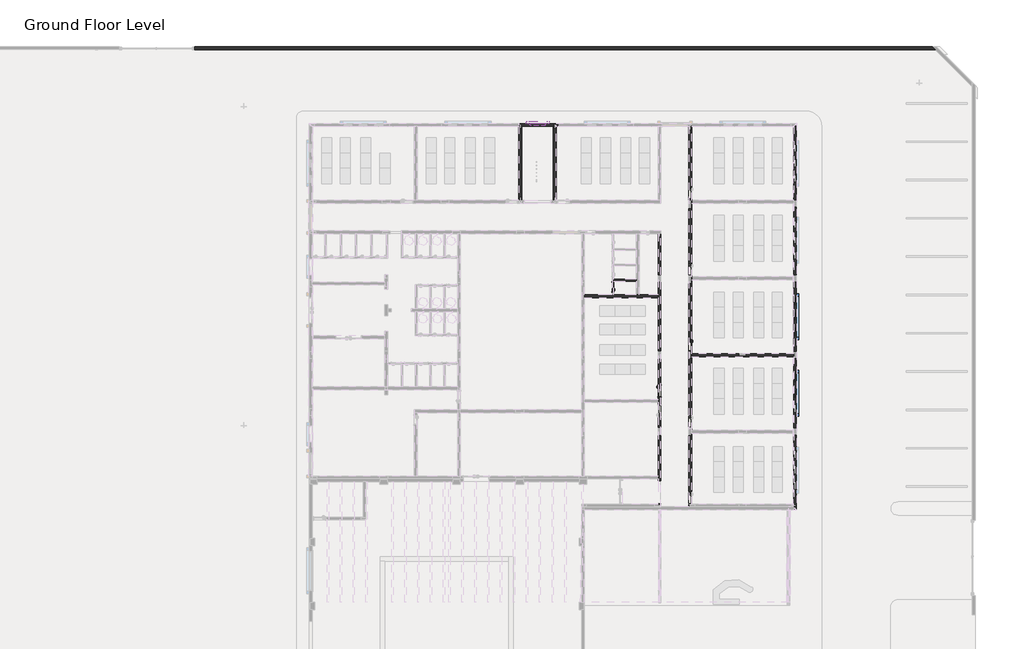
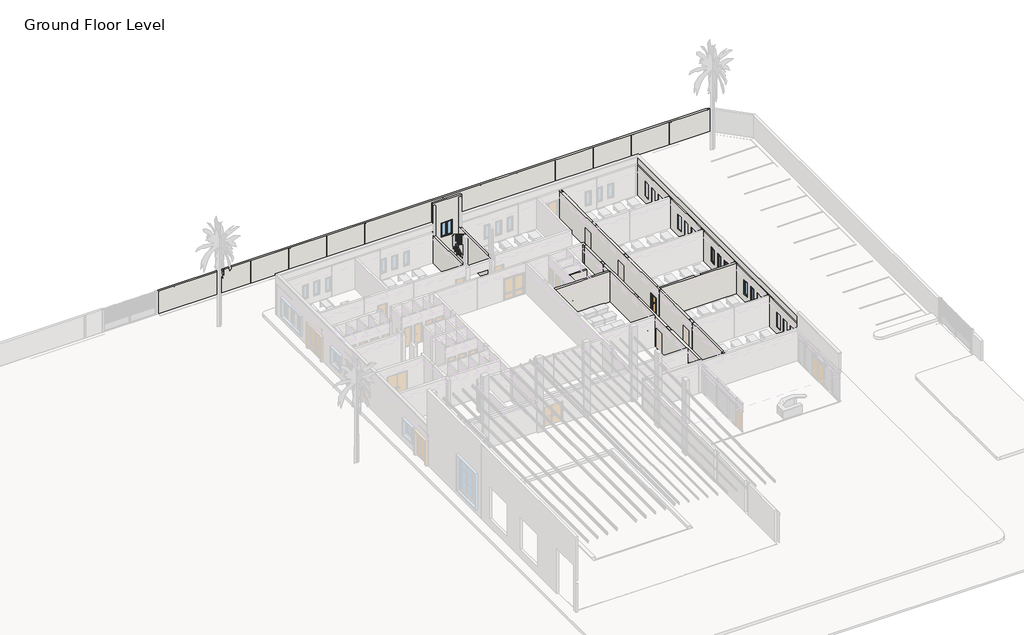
# One storey, part 9 of 23: 10 walls, 9 windows, 3 doors.
"""IFC4 building model written with IfcOpenShell, lengths in millimetres."""

from ifc_helpers import new_model, si_unit, frame, origin, place, context, project, spatial, polyline, outline, extrude, faceted_brep, transform, mapped, element, save
from components import int_single_flush_nz_700x_2100_e1d28701, int_single_flush_nz_900_x_2100_021ef152, int_single_flush_nz_900_x_2100_2a598139, awning_casement_double_w7_ecde4b56, window_batten_type_1_98129cd1, window_batten_type_1_65f01d97, window_single_shutter_w3_b236610e

model = new_model("IFC4")

# Units and contexts
model_context = context("Model", 3, world=origin())
ifc_project = project(units=[si_unit("LENGTHUNIT", "METRE", prefix="MILLI")], contexts=[model_context])

# Site, building, storey
site = spatial("IfcSite", under=ifc_project)
building = spatial("IfcBuilding", under=site)
storey = spatial("IfcBuildingStorey", under=building, Name="Ground Floor Level", Elevation=900.0)

# Doors
placement = place(None, origin())
int_single_flush_nz_700x_2100_shape = int_single_flush_nz_700x_2100_e1d28701(model_context)
element("IfcDoor", 1, ObjectType="Int Single-Flush (NZ) : 700x 2100", at=placement, inside=storey, context=model_context, shape_type="MappedRepresentation", body=[
    mapped(int_single_flush_nz_700x_2100_shape, transform((1702.7672395, 8941.2153534, 1000.0), x_axis=(0.0, 1.0, 0.0), y_axis=(-1.0, 0.0, 0.0), z_axis=(0.0, 0.0, 1.0))),
])
int_single_flush_nz_900_x_2100_shape = int_single_flush_nz_900_x_2100_021ef152(model_context)
element("IfcDoor", 2, ObjectType="Int Single-Flush (NZ) : 900 x 2100", at=placement, inside=storey, context=model_context, shape_type="MappedRepresentation", body=[
    mapped(int_single_flush_nz_900_x_2100_shape, transform((7752.7672395, 4239.2153534, 1000.0), x_axis=(0.0, -1.0, 0.0), y_axis=(1.0, 0.0, 0.0), z_axis=(0.0, 0.0, 1.0))),
])
int_single_flush_nz_900_x_2100_2_shape = int_single_flush_nz_900_x_2100_2a598139(model_context)
element("IfcDoor", 3, ObjectType="Int Single-Flush (NZ) : 900 x 2100", at=placement, inside=storey, context=model_context, shape_type="MappedRepresentation", body=[
    mapped(int_single_flush_nz_900_x_2100_2_shape, transform((5352.7672395, 649.2153534, 1000.0), x_axis=(0.0, -1.0, 0.0), y_axis=(1.0, 0.0, 0.0), z_axis=(0.0, 0.0, 1.0))),
])

# Walls
element("IfcWall", 4, ObjectType="Exterior - Blockwork 200 Stairs", at=placement, inside=storey, context=model_context, shape_type="Brep", body=[
    faceted_brep([(-5437.2327605, 21435.2153534, 4100.0), (-5437.2327605, 15655.2153534, 4100.0), (-5437.2327605, 15655.2153534, 1000.0), (-5437.2327605, 21435.2153534, 1000.0), (-5657.2327605, 15655.2153534, 4100.0), (-5657.2327605, 21435.2153534, 4100.0), (-5657.2327605, 21435.2153534, 1000.0), (-5657.2327605, 15655.2153534, 1000.0), (-5447.2327605, 15945.2153534, 900.0), (-5647.2327605, 15945.2153534, 900.0), (-5647.2327605, 21245.2153534, 900.0), (-5447.2327605, 21245.2153534, 900.0), (-5447.2327605, 21435.2153534, 4100.0), (-5447.2327605, 21245.2153534, 4100.0), (-5647.2327605, 21245.2153534, 4100.0), (-5647.2327605, 21435.2153534, 4100.0), (-5647.2327605, 15655.2153534, 4100.0), (-5647.2327605, 15945.2153534, 4100.0), (-5447.2327605, 15945.2153534, 4100.0), (-5447.2327605, 15655.2153534, 4100.0), (-5647.2327605, 15655.2153534, 1000.0), (-5647.2327605, 15945.2153534, 1000.0), (-5447.2327605, 15945.2153534, 1000.0), (-5447.2327605, 15655.2153534, 1000.0), (-5447.2327605, 21435.2153534, 1000.0), (-5447.2327605, 21245.2153534, 1000.0), (-5647.2327605, 21245.2153534, 1000.0), (-5647.2327605, 21435.2153534, 1000.0)], [[[0, 1, 2, 3]], [[4, 5, 6, 7]], [[8, 9, 10, 11]], [[1, 0, 12, 13, 14, 15, 5, 4, 16, 17, 18, 19]], [[20, 21, 17, 16]], [[9, 8, 22, 18, 17, 21]], [[19, 18, 22, 23]], [[13, 12, 24, 25]], [[11, 10, 26, 14, 13, 25]], [[26, 27, 15, 14]], [[27, 6, 5, 15]], [[12, 0, 3, 24]], [[16, 4, 7, 20]], [[1, 19, 23, 2]], [[26, 21, 20, 7, 6, 27]], [[21, 26, 10, 9]], [[22, 25, 24, 3, 2, 23]], [[25, 22, 8, 11]]]),
])
element("IfcWall", 5, ObjectType="Exterior - Blockwork 200 Stairs", at=placement, inside=storey, context=model_context, shape_type="Brep", body=[
    faceted_brep([(-2737.2327605, 15655.2153534, 900.0), (-2737.2327605, 21435.2153534, 900.0), (-2737.2327605, 21435.2153534, 4100.0), (-2737.2327605, 15655.2153534, 4100.0), (-2957.2327605, 21435.2153534, 900.0), (-2957.2327605, 15655.2153534, 900.0), (-2957.2327605, 15655.2153534, 4100.0), (-2957.2327605, 21435.2153534, 4100.0), (-2747.2327605, 15655.2153534, 900.0), (-2747.2327605, 15945.2153534, 900.0), (-2947.2327605, 15945.2153534, 900.0), (-2947.2327605, 15655.2153534, 900.0), (-2947.2327605, 21435.2153534, 900.0), (-2947.2327605, 21245.2153534, 900.0), (-2747.2327605, 21245.2153534, 900.0), (-2747.2327605, 21435.2153534, 900.0), (-2747.2327605, 21435.2153534, 4100.0), (-2747.2327605, 21245.2153534, 4100.0), (-2947.2327605, 21245.2153534, 4100.0), (-2947.2327605, 21435.2153534, 4100.0), (-2947.2327605, 15655.2153534, 4100.0), (-2947.2327605, 15945.2153534, 4100.0), (-2747.2327605, 15945.2153534, 4100.0), (-2747.2327605, 15655.2153534, 4100.0), (-2747.2327605, 21435.2153534, 1000.0), (-2947.2327605, 21435.2153534, 1000.0), (-2747.2327605, 15655.2153534, 1000.0), (-2947.2327605, 15655.2153534, 1000.0)], [[[0, 1, 2, 3]], [[4, 5, 6, 7]], [[1, 0, 8, 9, 10, 11, 5, 4, 12, 13, 14, 15]], [[3, 2, 16, 17, 18, 19, 7, 6, 20, 21, 22, 23]], [[2, 1, 15, 24, 16]], [[4, 7, 19, 25, 12]], [[0, 3, 23, 26, 8]], [[6, 5, 11, 27, 20]], [[10, 21, 20, 27, 11]], [[21, 10, 9, 22]], [[22, 9, 8, 26, 23]], [[14, 17, 16, 24, 15]], [[17, 14, 13, 18]], [[18, 13, 12, 25, 19]]]),
])
element("IfcWall", 6, ObjectType="Exterior - Blockwork 200mm", at=placement, inside=storey, context=model_context, shape_type="Brep", body=[
    faceted_brep([(15842.7672395, -8344.7846466, 5302.8002678), (15842.7672395, 21435.2153534, 5302.8002678), (15842.7672395, 21435.2153534, 4550.0), (15842.7672395, -8344.7846466, 4550.0), (15842.7672395, -8334.7846466, 4400.0), (15842.7672395, -8334.7846466, 900.0), (15842.7672395, -8344.7846466, 900.0), (15842.7672395, -8354.7846466, 900.0), (15842.7672395, -8354.7846466, 4400.0), (15842.7672395, -8344.7846466, 4400.0), (15842.7672395, -8134.7846466, 4400.0), (15842.7672395, -8124.7846466, 4400.0), (15842.7672395, -2564.7846466, 4400.0), (15842.7672395, -2344.7846466, 4400.0), (15842.7672395, 3425.2153534, 4400.0), (15842.7672395, 3645.2153534, 4400.0), (15842.7672395, 9435.2153534, 4400.0), (15842.7672395, 9655.2153534, 4400.0), (15842.7672395, 15435.2153534, 4400.0), (15842.7672395, 15655.2153534, 4400.0), (15842.7672395, 21435.2153534, 4400.0), (15842.7672395, 21435.2153534, 1000.0), (15842.7672395, 15655.2153534, 1000.0), (15842.7672395, 15655.2153534, 900.0), (15842.7672395, 15445.2153534, 900.0), (15842.7672395, 15445.2153534, 1000.0), (15842.7672395, 15435.2153534, 1000.0), (15842.7672395, 9655.2153534, 1000.0), (15842.7672395, 9655.2153534, 900.0), (15842.7672395, 9445.2153534, 900.0), (15842.7672395, 9445.2153534, 1000.0), (15842.7672395, 9435.2153534, 1000.0), (15842.7672395, 3645.2153534, 1000.0), (15842.7672395, 3645.2153534, 900.0), (15842.7672395, 3435.2153534, 900.0), (15842.7672395, 3435.2153534, 1000.0), (15842.7672395, 3425.2153534, 1000.0), (15842.7672395, -2344.7846466, 1000.0), (15842.7672395, -2344.7846466, 900.0), (15842.7672395, -2554.7846466, 900.0), (15842.7672395, -2554.7846466, 1000.0), (15842.7672395, -2564.7846466, 1000.0), (15842.7672395, -8124.7846466, 1000.0), (15842.7672395, -8134.7846466, 1000.0), (15842.7672395, 20035.2153534, 1800.0), (15842.7672395, 20035.2153534, 3400.0), (15842.7672395, 19435.2153534, 3400.0), (15842.7672395, 19435.2153534, 1800.0), (15842.7672395, 18855.2153534, 1800.0), (15842.7672395, 18855.2153534, 3400.0), (15842.7672395, 18255.2153534, 3400.0), (15842.7672395, 18255.2153534, 1800.0), (15842.7672395, 17655.2153534, 1800.0), (15842.7672395, 17655.2153534, 3400.0), (15842.7672395, 17055.2153534, 3400.0), (15842.7672395, 17055.2153534, 1800.0), (15842.7672395, 14055.2153534, 1800.0), (15842.7672395, 14055.2153534, 3400.0), (15842.7672395, 13455.2153534, 3400.0), (15842.7672395, 13455.2153534, 1800.0), (15842.7672395, 12835.2153534, 1800.0), (15842.7672395, 12835.2153534, 3400.0), (15842.7672395, 12235.2153534, 3400.0), (15842.7672395, 12235.2153534, 1800.0), (15842.7672395, 11635.2153534, 1800.0), (15842.7672395, 11635.2153534, 3400.0), (15842.7672395, 11035.2153534, 3400.0), (15842.7672395, 11035.2153534, 1800.0), (15842.7672395, 8035.2153534, 1800.0), (15842.7672395, 8035.2153534, 3400.0), (15842.7672395, 7435.2153534, 3400.0), (15842.7672395, 7435.2153534, 1800.0), (15842.7672395, 6855.2153534, 1800.0), (15842.7672395, 6855.2153534, 3400.0), (15842.7672395, 6255.2153534, 3400.0), (15842.7672395, 6255.2153534, 1800.0), (15842.7672395, 5635.2153534, 1800.0), (15842.7672395, 5635.2153534, 3400.0), (15842.7672395, 5035.2153534, 3400.0), (15842.7672395, 5035.2153534, 1800.0), (15842.7672395, 2045.2153534, 1800.0), (15842.7672395, 2045.2153534, 3400.0), (15842.7672395, 1445.2153534, 3400.0), (15842.7672395, 1445.2153534, 1800.0), (15842.7672395, 845.2153534, 1800.0), (15842.7672395, 845.2153534, 3400.0), (15842.7672395, 245.2153534, 3400.0), (15842.7672395, 245.2153534, 1800.0), (15842.7672395, -354.7846466, 1800.0), (15842.7672395, -354.7846466, 3400.0), (15842.7672395, -954.7846466, 3400.0), (15842.7672395, -954.7846466, 1800.0), (15842.7672395, -3944.7846466, 1800.0), (15842.7672395, -3944.7846466, 3400.0), (15842.7672395, -4544.7846466, 3400.0), (15842.7672395, -4544.7846466, 1800.0), (15842.7672395, -5144.7846466, 1800.0), (15842.7672395, -5144.7846466, 3400.0), (15842.7672395, -5744.7846466, 3400.0), (15842.7672395, -5744.7846466, 1800.0), (15842.7672395, -6364.7846466, 1800.0), (15842.7672395, -6364.7846466, 3400.0), (15842.7672395, -6964.7846466, 3400.0), (15842.7672395, -6964.7846466, 1800.0), (15842.7672395, -8564.7846466, 900.0), (15842.7672395, -8564.7846466, 4400.0), (15842.7672395, -8554.7846466, 4400.0), (15842.7672395, -8554.7846466, 900.0), (16062.7672395, -8564.7846466, 900.0), (16062.7672395, 21435.2153534, 900.0), (16062.7672395, 21435.2153534, 5302.8002678), (16062.7672395, -8344.7846466, 5302.8002678), (16062.7672395, -8344.7846466, 4400.0), (16062.7672395, -8564.7846466, 4400.0), (16062.7672395, 20035.2153534, 3400.0), (16062.7672395, 20035.2153534, 1800.0), (16062.7672395, 19435.2153534, 1800.0), (16062.7672395, 19435.2153534, 3400.0), (16062.7672395, 18855.2153534, 3400.0), (16062.7672395, 18855.2153534, 1800.0), (16062.7672395, 18255.2153534, 1800.0), (16062.7672395, 18255.2153534, 3400.0), (16062.7672395, 17655.2153534, 3400.0), (16062.7672395, 17655.2153534, 1800.0), (16062.7672395, 17055.2153534, 1800.0), (16062.7672395, 17055.2153534, 3400.0), (16062.7672395, 14055.2153534, 3400.0), (16062.7672395, 14055.2153534, 1800.0), (16062.7672395, 13455.2153534, 1800.0), (16062.7672395, 13455.2153534, 3400.0), (16062.7672395, 12835.2153534, 3400.0), (16062.7672395, 12835.2153534, 1800.0), (16062.7672395, 12235.2153534, 1800.0), (16062.7672395, 12235.2153534, 3400.0), (16062.7672395, 11635.2153534, 3400.0), (16062.7672395, 11635.2153534, 1800.0), (16062.7672395, 11035.2153534, 1800.0), (16062.7672395, 11035.2153534, 3400.0), (16062.7672395, 8035.2153534, 3400.0), (16062.7672395, 8035.2153534, 1800.0), (16062.7672395, 7435.2153534, 1800.0), (16062.7672395, 7435.2153534, 3400.0), (16062.7672395, 6855.2153534, 3400.0), (16062.7672395, 6855.2153534, 1800.0), (16062.7672395, 6255.2153534, 1800.0), (16062.7672395, 6255.2153534, 3400.0), (16062.7672395, 5635.2153534, 3400.0), (16062.7672395, 5635.2153534, 1800.0), (16062.7672395, 5035.2153534, 1800.0), (16062.7672395, 5035.2153534, 3400.0), (16062.7672395, 2045.2153534, 3400.0), (16062.7672395, 2045.2153534, 1800.0), (16062.7672395, 1445.2153534, 1800.0), (16062.7672395, 1445.2153534, 3400.0), (16062.7672395, 845.2153534, 3400.0), (16062.7672395, 845.2153534, 1800.0), (16062.7672395, 245.2153534, 1800.0), (16062.7672395, 245.2153534, 3400.0), (16062.7672395, -354.7846466, 3400.0), (16062.7672395, -354.7846466, 1800.0), (16062.7672395, -954.7846466, 1800.0), (16062.7672395, -954.7846466, 3400.0), (16062.7672395, -3944.7846466, 3400.0), (16062.7672395, -3944.7846466, 1800.0), (16062.7672395, -4544.7846466, 1800.0), (16062.7672395, -4544.7846466, 3400.0), (16062.7672395, -5144.7846466, 3400.0), (16062.7672395, -5144.7846466, 1800.0), (16062.7672395, -5744.7846466, 1800.0), (16062.7672395, -5744.7846466, 3400.0), (16062.7672395, -6364.7846466, 3400.0), (16062.7672395, -6364.7846466, 1800.0), (16062.7672395, -6964.7846466, 1800.0), (16062.7672395, -6964.7846466, 3400.0), (15852.7672395, 21435.2153534, 900.0), (15852.7672395, 21435.2153534, 1000.0), (16052.7672395, 21435.2153534, 4400.0), (16052.7672395, 21435.2153534, 4550.0), (16052.7672395, 15145.2153534, 900.0), (16052.7672395, 15145.2153534, 4400.0), (16052.7672395, 9795.2153534, 4400.0), (16052.7672395, 9795.2153534, 900.0), (16052.7672395, 9295.2153534, 900.0), (16052.7672395, 9295.2153534, 4400.0), (16052.7672395, 3795.2153534, 4400.0), (16052.7672395, 3795.2153534, 900.0), (16052.7672395, 3295.2153534, 900.0), (16052.7672395, 3295.2153534, 4400.0), (16052.7672395, -2204.7846466, 4400.0), (16052.7672395, -2204.7846466, 900.0), (16052.7672395, -2704.7846466, 900.0), (16052.7672395, -2704.7846466, 4400.0), (16052.7672395, -8134.7846466, 4400.0), (16052.7672395, -8134.7846466, 900.0), (16052.7672395, -8334.7846466, 900.0), (16052.7672395, -8334.7846466, 4400.0), (16052.7672395, -8344.7846466, 4400.0), (16052.7672395, -8344.7846466, 4550.0), (16052.7672395, 15645.2153534, 4400.0), (16052.7672395, 15645.2153534, 900.0), (15852.7672395, 15145.2153534, 900.0), (15852.7672395, 15145.2153534, 1000.0), (15852.7672395, 15145.2153534, 4400.0), (15852.7672395, 15645.2153534, 900.0), (15852.7672395, 15645.2153534, 4400.0), (15852.7672395, 15445.2153534, 1000.0), (15852.7672395, 15445.2153534, 900.0), (15852.7672395, 9295.2153534, 900.0), (15852.7672395, 9295.2153534, 1000.0), (15852.7672395, 9295.2153534, 4400.0), (15852.7672395, 9795.2153534, 4400.0), (15852.7672395, 9445.2153534, 1000.0), (15852.7672395, 9445.2153534, 900.0), (15852.7672395, 9655.2153534, 900.0), (15852.7672395, 9655.2153534, 1000.0), (15852.7672395, 9795.2153534, 1000.0), (15852.7672395, 9795.2153534, 900.0), (15852.7672395, 3795.2153534, 4400.0), (15852.7672395, 3295.2153534, 4400.0), (15852.7672395, 3295.2153534, 1000.0), (15852.7672395, 3435.2153534, 1000.0), (15852.7672395, 3435.2153534, 900.0), (15852.7672395, 3645.2153534, 900.0), (15852.7672395, 3645.2153534, 1000.0), (15852.7672395, 3795.2153534, 1000.0), (15852.7672395, 3795.2153534, 900.0), (15852.7672395, 3295.2153534, 900.0), (15852.7672395, -2204.7846466, 4400.0), (15852.7672395, -2704.7846466, 4400.0), (15852.7672395, -2704.7846466, 1000.0), (15852.7672395, -2554.7846466, 1000.0), (15852.7672395, -2554.7846466, 900.0), (15852.7672395, -2344.7846466, 900.0), (15852.7672395, -2344.7846466, 1000.0), (15852.7672395, -2204.7846466, 1000.0), (15852.7672395, -2204.7846466, 900.0), (15852.7672395, -2704.7846466, 900.0), (15852.7672395, -8134.7846466, 1000.0), (15852.7672395, -8134.7846466, 900.0), (16052.7672395, -8354.7846466, 900.0), (16052.7672395, -8354.7846466, 4400.0), (16052.7672395, -8554.7846466, 900.0), (16052.7672395, -8554.7846466, 4400.0), (15852.7672395, 15655.2153534, 1000.0), (15852.7672395, 15655.2153534, 900.0)], [[[0, 1, 2, 3]], [[4, 5, 6, 7, 8, 9]], [[10, 11, 12, 13, 14, 15, 16, 17, 18, 19, 20, 21, 22, 23, 24, 25, 26, 27, 28, 29, 30, 31, 32, 33, 34, 35, 36, 37, 38, 39, 40, 41, 42, 43], [44, 45, 46, 47], [48, 49, 50, 51], [52, 53, 54, 55], [56, 57, 58, 59], [60, 61, 62, 63], [64, 65, 66, 67], [68, 69, 70, 71], [72, 73, 74, 75], [76, 77, 78, 79], [80, 81, 82, 83], [84, 85, 86, 87], [88, 89, 90, 91], [92, 93, 94, 95], [96, 97, 98, 99], [100, 101, 102, 103]], [[104, 105, 106, 107]], [[108, 109, 110, 111, 112, 113], [114, 115, 116, 117], [118, 119, 120, 121], [122, 123, 124, 125], [126, 127, 128, 129], [130, 131, 132, 133], [134, 135, 136, 137], [138, 139, 140, 141], [142, 143, 144, 145], [146, 147, 148, 149], [150, 151, 152, 153], [154, 155, 156, 157], [158, 159, 160, 161], [162, 163, 164, 165], [166, 167, 168, 169], [170, 171, 172, 173]], [[110, 109, 174, 175, 21, 20, 176, 177, 2, 1]], [[178, 179, 180, 181, 182, 183, 184, 185, 186, 187, 188, 189, 190, 191, 192, 193, 194, 195, 196, 197, 177, 176, 198, 199]], [[179, 178, 200, 201, 202]], [[203, 204, 202, 201, 205, 206]], [[204, 203, 199, 198]], [[183, 182, 207, 208, 209]], [[210, 209, 208, 211, 212, 213, 214, 215]], [[181, 180, 210, 215, 216]], [[217, 218, 219, 220, 221, 222, 223, 224]], [[185, 184, 217, 224, 225]], [[187, 186, 226, 219, 218]], [[227, 228, 229, 230, 231, 232, 233, 234]], [[189, 188, 227, 234, 235]], [[191, 190, 236, 229, 228]], [[193, 192, 10, 43, 237, 238]], [[195, 194, 5, 4]], [[239, 240, 8, 7]], [[240, 239, 241, 242]], [[45, 44, 115, 114]], [[46, 45, 114, 117]], [[47, 46, 117, 116]], [[44, 47, 116, 115]], [[49, 48, 119, 118]], [[50, 49, 118, 121]], [[51, 50, 121, 120]], [[48, 51, 120, 119]], [[53, 52, 123, 122]], [[54, 53, 122, 125]], [[55, 54, 125, 124]], [[52, 55, 124, 123]], [[57, 56, 127, 126]], [[58, 57, 126, 129]], [[59, 58, 129, 128]], [[56, 59, 128, 127]], [[61, 60, 131, 130]], [[62, 61, 130, 133]], [[63, 62, 133, 132]], [[60, 63, 132, 131]], [[65, 64, 135, 134]], [[66, 65, 134, 137]], [[67, 66, 137, 136]], [[64, 67, 136, 135]], [[69, 68, 139, 138]], [[70, 69, 138, 141]], [[71, 70, 141, 140]], [[68, 71, 140, 139]], [[73, 72, 143, 142]], [[74, 73, 142, 145]], [[75, 74, 145, 144]], [[72, 75, 144, 143]], [[77, 76, 147, 146]], [[78, 77, 146, 149]], [[79, 78, 149, 148]], [[76, 79, 148, 147]], [[81, 80, 151, 150]], [[82, 81, 150, 153]], [[83, 82, 153, 152]], [[80, 83, 152, 151]], [[85, 84, 155, 154]], [[86, 85, 154, 157]], [[87, 86, 157, 156]], [[84, 87, 156, 155]], [[89, 88, 159, 158]], [[90, 89, 158, 161]], [[91, 90, 161, 160]], [[88, 91, 160, 159]], [[93, 92, 163, 162]], [[94, 93, 162, 165]], [[95, 94, 165, 164]], [[92, 95, 164, 163]], [[97, 96, 167, 166]], [[98, 97, 166, 169]], [[99, 98, 169, 168]], [[96, 99, 168, 167]], [[101, 100, 171, 170]], [[102, 101, 170, 173]], [[103, 102, 173, 172]], [[100, 103, 172, 171]], [[177, 197, 3, 2]], [[105, 104, 108, 113]], [[112, 111, 0, 3, 197, 196]], [[242, 241, 107, 106]], [[229, 237, 43, 42, 41, 40, 230]], [[230, 40, 39, 231]], [[237, 229, 236, 238]], [[219, 234, 233, 37, 36, 35, 220]], [[220, 35, 34, 221]], [[234, 219, 226, 235]], [[37, 233, 232, 38]], [[208, 224, 223, 32, 31, 30, 211]], [[211, 30, 29, 212]], [[224, 208, 207, 225]], [[32, 223, 222, 33]], [[201, 215, 214, 27, 26, 25, 205]], [[205, 25, 24, 206]], [[215, 201, 200, 216]], [[27, 214, 213, 28]], [[175, 243, 22, 21]], [[244, 243, 175, 174]], [[243, 244, 23, 22]], [[109, 108, 104, 107, 241, 239, 7, 6, 5, 194, 193, 238, 236, 190, 189, 235, 226, 186, 185, 225, 207, 182, 181, 216, 200, 178, 199, 203, 206, 24, 23, 244, 174]], [[39, 38, 232, 231]], [[34, 33, 222, 221]], [[29, 28, 213, 212]], [[1, 0, 111, 110]], [[180, 179, 202, 204, 198, 176, 20, 19, 18, 17, 16, 15, 14, 13, 12, 11, 10, 192, 191, 228, 227, 188, 187, 218, 217, 184, 183, 209, 210]], [[195, 4, 9, 8, 240, 242, 106, 105, 113, 112, 196]]]),
])
element("IfcWall", 7, ObjectType="Exterior - Blockwork 200mm", at=placement, inside=storey, context=model_context, shape_type="Brep", body=[
    faceted_brep([(-2637.2327605, 21435.2153534, 900.0), (-2637.2327605, 21435.2153534, 7598.0296693), (-5657.2327605, 21435.2153534, 7598.0296693), (-5657.2327605, 21435.2153534, 4400.0), (-5657.2327605, 21435.2153534, 4100.0), (-5657.2327605, 21435.2153534, 1000.0), (-5657.2327605, 21435.2153534, 900.0), (-5647.2327605, 21435.2153534, 900.0), (-5647.2327605, 21435.2153534, 1000.0), (-5647.2327605, 21435.2153534, 4100.0), (-5647.2327605, 21435.2153534, 7400.0), (-5447.2327605, 21435.2153534, 7400.0), (-5447.2327605, 21435.2153534, 4100.0), (-5447.2327605, 21435.2153534, 1000.0), (-5437.2327605, 21435.2153534, 1000.0), (-2947.2327605, 21435.2153534, 1000.0), (-2947.2327605, 21435.2153534, 4100.0), (-2947.2327605, 21435.2153534, 7400.0), (-2747.2327605, 21435.2153534, 7400.0), (-2747.2327605, 21435.2153534, 4100.0), (-2747.2327605, 21435.2153534, 1000.0), (-2737.2327605, 21435.2153534, 1000.0), (-2737.2327605, 21435.2153534, 900.0), (-4797.2327605, 21435.2153534, 3552.9147636), (-4797.2327605, 21435.2153534, 5152.9147636), (-3597.2327605, 21435.2153534, 5152.9147636), (-3597.2327605, 21435.2153534, 3552.9147636), (-2637.2327605, 21655.2153534, 900.0), (-5657.2327605, 21655.2153534, 900.0), (-5657.2327605, 21655.2153534, 7598.0296693), (-2637.2327605, 21655.2153534, 7598.0296693), (-4797.2327605, 21655.2153534, 5152.9147636), (-4797.2327605, 21655.2153534, 3552.9147636), (-3597.2327605, 21655.2153534, 3552.9147636), (-3597.2327605, 21655.2153534, 5152.9147636), (-2737.2327605, 21445.2153534, 900.0), (-2747.2327605, 21445.2153534, 900.0), (-2747.2327605, 21645.2153534, 900.0), (-2947.2327605, 21645.2153534, 900.0), (-2947.2327605, 21445.2153534, 900.0), (-5447.2327605, 21445.2153534, 900.0), (-5447.2327605, 21645.2153534, 900.0), (-5647.2327605, 21645.2153534, 900.0), (-5447.2327605, 21645.2153534, 7400.0), (-5447.2327605, 21445.2153534, 1000.0), (-5647.2327605, 21645.2153534, 7400.0), (-2947.2327605, 21645.2153534, 7400.0), (-2947.2327605, 21445.2153534, 1000.0), (-2747.2327605, 21645.2153534, 7400.0), (-2747.2327605, 21445.2153534, 1000.0), (-2737.2327605, 21445.2153534, 1000.0)], [[[0, 1, 2, 3, 4, 5, 6, 7, 8, 9, 10, 11, 12, 13, 14, 15, 16, 17, 18, 19, 20, 21, 22], [23, 24, 25, 26]], [[27, 28, 29, 30], [31, 32, 33, 34]], [[28, 27, 0, 22, 35, 36, 37, 38, 39, 40, 41, 42, 7, 6]], [[1, 0, 27, 30]], [[2, 1, 30, 29]], [[11, 43, 41, 40, 44, 13, 12]], [[43, 45, 42, 41]], [[45, 43, 11, 10]], [[38, 46, 17, 16, 15, 47, 39]], [[48, 46, 38, 37]], [[46, 48, 18, 17]], [[48, 37, 36, 49, 20, 19, 18]], [[45, 10, 9, 8, 7, 42]], [[24, 23, 32, 31]], [[25, 24, 31, 34]], [[26, 25, 34, 33]], [[23, 26, 33, 32]], [[44, 47, 15, 14, 13]], [[50, 21, 20, 49]], [[35, 50, 49, 36]], [[47, 44, 40, 39]], [[2, 29, 28, 6, 5, 4, 3]], [[50, 35, 22, 21]]]),
])
element("IfcWall", 8, ObjectType="Exterior - Blockwork 200mm", at=placement, inside=storey, context=model_context, shape_type="SweptSolid", body=[
    extrude(outline(polyline([(26941.6402558, 27445.2153534), (-31047.2327605, 27445.2153534), (-31047.2327605, 27665.2153534), (26721.6402558, 27665.2153534), (26941.6402558, 27445.2153534)])), frame((0.0, 0.0, 600.0), z_axis=(0.0, 0.0, 1.0), x_axis=(1.0, 0.0, 0.0)), (0.0, 0.0, 1.0), 2500.0),
])
element("IfcWall", 9, ObjectType="Interior - Blockwork 200", at=placement, inside=storey, context=model_context, shape_type="Brep", body=[
    faceted_brep([(5242.7672395, 13035.2153534, 4400.0), (5242.7672395, 13035.2153534, 900.0), (5242.7672395, 8255.2153534, 900.0), (5242.7672395, 8045.2153534, 900.0), (5242.7672395, 8045.2153534, 1000.0), (5242.7672395, 8035.2153534, 1000.0), (5242.7672395, 1193.2153534, 1000.0), (5242.7672395, 1193.2153534, 3119.0), (5242.7672395, 255.2153534, 3119.0), (5242.7672395, 255.2153534, 1000.0), (5242.7672395, 55.2153534, 1000.0), (5242.7672395, 45.2153534, 1000.0), (5242.7672395, 45.2153534, 900.0), (5242.7672395, -154.7846466, 900.0), (5242.7672395, -154.7846466, 1000.0), (5242.7672395, -164.7846466, 1000.0), (5242.7672395, -364.7846466, 1000.0), (5242.7672395, -364.7846466, 3119.0), (5242.7672395, -1302.7846466, 3119.0), (5242.7672395, -1302.7846466, 1000.0), (5242.7672395, -5944.7846466, 1000.0), (5242.7672395, -5954.7846466, 1000.0), (5242.7672395, -5954.7846466, 900.0), (5242.7672395, -6154.7846466, 900.0), (5242.7672395, -6154.7846466, 910.0), (5242.7672395, -6164.7846466, 910.0), (5242.7672395, -6289.7846466, 910.0), (5242.7672395, -6289.7846466, 3000.0), (5242.7672395, -8089.7846466, 3000.0), (5242.7672395, -8089.7846466, 910.0), (5242.7672395, -8134.7846466, 910.0), (5242.7672395, -8134.7846466, 4400.0), (5242.7672395, -6164.7846466, 4400.0), (5242.7672395, -5944.7846466, 4400.0), (5242.7672395, -164.7846466, 4400.0), (5242.7672395, 55.2153534, 4400.0), (5242.7672395, 8035.2153534, 4400.0), (5242.7672395, 8255.2153534, 4400.0), (5462.7672395, 13035.2153534, 4400.0), (5462.7672395, -8134.7846466, 4400.0), (5462.7672395, -8134.7846466, 1000.0), (5462.7672395, -8089.7846466, 1000.0), (5462.7672395, -8089.7846466, 3000.0), (5462.7672395, -6289.7846466, 3000.0), (5462.7672395, -6289.7846466, 1000.0), (5462.7672395, -1302.7846466, 1000.0), (5462.7672395, -1302.7846466, 3119.0), (5462.7672395, -364.7846466, 3119.0), (5462.7672395, -364.7846466, 1000.0), (5462.7672395, 255.2153534, 1000.0), (5462.7672395, 255.2153534, 3119.0), (5462.7672395, 1193.2153534, 3119.0), (5462.7672395, 1193.2153534, 1000.0), (5462.7672395, 13035.2153534, 1000.0), (5252.7672395, 12745.2153534, 900.0), (5452.7672395, 12745.2153534, 900.0), (5452.7672395, 9795.2153534, 900.0), (5252.7672395, 9795.2153534, 900.0), (5252.7672395, 9295.2153534, 900.0), (5452.7672395, 9295.2153534, 900.0), (5452.7672395, 3845.2153534, 900.0), (5252.7672395, 3845.2153534, 900.0), (5252.7672395, 8045.2153534, 900.0), (5252.7672395, 13035.2153534, 900.0), (5252.7672395, 3245.2153534, 900.0), (5452.7672395, 3245.2153534, 900.0), (5452.7672395, -2154.7846466, 900.0), (5252.7672395, -2154.7846466, 900.0), (5252.7672395, -154.7846466, 900.0), (5252.7672395, 45.2153534, 900.0), (5252.7672395, -2754.7846466, 900.0), (5452.7672395, -2754.7846466, 900.0), (5452.7672395, -6154.7846466, 900.0), (5252.7672395, -5954.7846466, 900.0), (5252.7672395, 13035.2153534, 4400.0), (5452.7672395, 13035.2153534, 4400.0), (5452.7672395, 13035.2153534, 1000.0), (5452.7672395, 12745.2153534, 4400.0), (5452.7672395, 12745.2153534, 1000.0), (5252.7672395, 12745.2153534, 4400.0), (5452.7672395, 9295.2153534, 4400.0), (5452.7672395, 9795.2153534, 4400.0), (5452.7672395, 9795.2153534, 1000.0), (5452.7672395, 9295.2153534, 1000.0), (5252.7672395, 9295.2153534, 4400.0), (5252.7672395, 9795.2153534, 4400.0), (5252.7672395, 3845.2153534, 4400.0), (5252.7672395, 3245.2153534, 4400.0), (5252.7672395, 3245.2153534, 1000.0), (5252.7672395, 3845.2153534, 1000.0), (5452.7672395, 3845.2153534, 1000.0), (5452.7672395, 3845.2153534, 4400.0), (5452.7672395, 3245.2153534, 4400.0), (5452.7672395, 3245.2153534, 1000.0), (5252.7672395, -2154.7846466, 4400.0), (5252.7672395, -2754.7846466, 4400.0), (5252.7672395, -2754.7846466, 1000.0), (5252.7672395, -2154.7846466, 1000.0), (5452.7672395, -2154.7846466, 1000.0), (5452.7672395, -2154.7846466, 4400.0), (5452.7672395, -2754.7846466, 4400.0), (5452.7672395, -2754.7846466, 1000.0), (5452.7672395, -8134.7846466, 4400.0), (5452.7672395, -1302.7846466, 1000.0), (5452.7672395, -6289.7846466, 1000.0), (5452.7672395, 1193.2153534, 1000.0), (5452.7672395, -8134.7846466, 1000.0), (5452.7672395, -8089.7846466, 1000.0), (5452.7672395, -364.7846466, 1000.0), (5452.7672395, 255.2153534, 1000.0), (5452.7672395, -6289.7846466, 910.0), (5452.7672395, -6154.7846466, 910.0), (5452.7672395, -8134.7846466, 910.0), (5452.7672395, -8089.7846466, 910.0), (5252.7672395, 8045.2153534, 1000.0), (5252.7672395, 1193.2153534, 1000.0), (5252.7672395, 45.2153534, 1000.0), (5252.7672395, 255.2153534, 1000.0), (5252.7672395, -154.7846466, 1000.0), (5252.7672395, -364.7846466, 1000.0), (5252.7672395, -5954.7846466, 1000.0), (5252.7672395, -1302.7846466, 1000.0)], [[[0, 1, 2, 3, 4, 5, 6, 7, 8, 9, 10, 11, 12, 13, 14, 15, 16, 17, 18, 19, 20, 21, 22, 23, 24, 25, 26, 27, 28, 29, 30, 31, 32, 33, 34, 35, 36, 37]], [[38, 39, 40, 41, 42, 43, 44, 45, 46, 47, 48, 49, 50, 51, 52, 53]], [[54, 55, 56, 57, 58, 59, 60, 61, 62, 3, 2, 1, 63]], [[64, 65, 66, 67, 68, 13, 12, 69]], [[70, 71, 72, 23, 22, 73]], [[1, 0, 74, 63]], [[75, 38, 53, 76]], [[77, 75, 76, 78]], [[54, 79, 77, 78, 55]], [[79, 54, 63, 74]], [[80, 81, 82, 83]], [[58, 84, 80, 83, 59]], [[84, 58, 57, 85]], [[85, 57, 56, 82, 81]], [[86, 87, 88, 89]], [[61, 60, 90, 91, 86, 89]], [[92, 91, 90, 93]], [[65, 64, 88, 87, 92, 93]], [[94, 95, 96, 97]], [[67, 66, 98, 99, 94, 97]], [[100, 99, 98, 101]], [[71, 70, 96, 95, 100, 101]], [[0, 37, 36, 35, 34, 33, 32, 31, 102, 39, 38, 75, 77, 79, 74], [95, 94, 99, 100], [87, 86, 91, 92], [81, 80, 84, 85]], [[101, 98, 103, 45, 44, 104]], [[82, 78, 76, 53, 52, 105, 93, 90, 83]], [[40, 106, 107, 41]], [[48, 108, 109, 49]], [[71, 101, 104, 110, 111, 72]], [[78, 82, 56, 55]], [[83, 90, 60, 59]], [[66, 65, 93, 105, 109, 108, 103, 98]], [[107, 106, 112, 113]], [[114, 89, 88, 115, 6, 5, 4]], [[116, 11, 10, 9, 117]], [[69, 116, 117, 115, 88, 64]], [[114, 62, 61, 89]], [[116, 69, 12, 11]], [[62, 114, 4, 3]], [[14, 118, 119, 16, 15]], [[96, 120, 21, 20, 19, 121, 97]], [[68, 118, 14, 13]], [[118, 68, 67, 97, 121, 119]], [[73, 120, 96, 70]], [[120, 73, 22, 21]], [[24, 111, 110, 26, 25]], [[30, 29, 113, 112]], [[111, 24, 23, 72]], [[39, 102, 31, 30, 112, 106, 40]], [[28, 42, 41, 107, 113, 29]], [[43, 27, 26, 110, 104, 44]], [[42, 28, 27, 43]], [[47, 17, 16, 119, 108, 48]], [[17, 47, 46, 18]], [[18, 46, 45, 103, 121, 19]], [[103, 108, 119, 121]], [[8, 50, 49, 109, 117, 9]], [[50, 8, 7, 51]], [[51, 7, 6, 115, 105, 52]], [[109, 105, 115, 117]]]),
])
element("IfcWall", 10, ObjectType="Interior - Blockwork 200", at=placement, inside=storey, context=model_context, shape_type="Brep", body=[
    faceted_brep([(5242.7672395, 8035.2153534, 4400.0), (-537.2327605, 8035.2153534, 4400.0), (-537.2327605, 8035.2153534, 1000.0), (5242.7672395, 8035.2153534, 1000.0), (5242.7672395, 8255.2153534, 4400.0), (5242.7672395, 8255.2153534, 900.0), (3762.7672395, 8255.2153534, 900.0), (3542.7672395, 8255.2153534, 900.0), (3542.7672395, 8255.2153534, 1000.0), (-537.2327605, 8255.2153534, 1000.0), (-537.2327605, 8255.2153534, 4400.0), (1642.7672395, 8255.2153534, 4400.0), (1762.7672395, 8255.2153534, 4400.0), (3542.7672395, 8255.2153534, 4400.0), (3762.7672395, 8255.2153534, 4400.0), (-537.2327605, 8245.2153534, 900.0), (3542.7672395, 8245.2153534, 900.0), (5242.7672395, 8045.2153534, 900.0), (-537.2327605, 8045.2153534, 900.0), (5242.7672395, 8045.2153534, 1000.0), (-537.2327605, 8245.2153534, 1000.0), (-537.2327605, 8045.2153534, 1000.0), (3542.7672395, 8245.2153534, 1000.0)], [[[0, 1, 2, 3]], [[4, 5, 6, 7, 8, 9, 10, 11, 12, 13, 14]], [[15, 16, 7, 6, 5, 17, 18]], [[5, 4, 0, 3, 19, 17]], [[1, 10, 9, 20, 15, 18, 21, 2]], [[1, 0, 4, 14, 13, 12, 11, 10]], [[22, 20, 9, 8]], [[22, 16, 15, 20]], [[21, 19, 3, 2]], [[19, 21, 18, 17]], [[16, 22, 8, 7]]]),
])
element("IfcWall", 11, ObjectType="Interior - Blockwork 200", at=placement, inside=storey, context=model_context, shape_type="Brep", body=[
    faceted_brep([(7642.7672395, -8344.7846466, 4400.0), (7642.7672395, 21435.2153534, 4400.0), (7642.7672395, 21435.2153534, 1000.0), (7642.7672395, 16693.2153534, 1000.0), (7642.7672395, 16693.2153534, 3119.0), (7642.7672395, 15755.2153534, 3119.0), (7642.7672395, 15755.2153534, 1000.0), (7642.7672395, 10693.2153534, 1000.0), (7642.7672395, 10693.2153534, 3119.0), (7642.7672395, 9755.2153534, 3119.0), (7642.7672395, 9755.2153534, 1000.0), (7642.7672395, 4783.2153534, 1000.0), (7642.7672395, 4783.2153534, 3119.0), (7642.7672395, 3845.2153534, 3119.0), (7642.7672395, 3845.2153534, 1000.0), (7642.7672395, -1206.7846466, 1000.0), (7642.7672395, -1206.7846466, 3119.0), (7642.7672395, -2144.7846466, 3119.0), (7642.7672395, -2144.7846466, 1000.0), (7642.7672395, -7186.7846466, 1000.0), (7642.7672395, -7186.7846466, 3119.0), (7642.7672395, -8124.7846466, 3119.0), (7642.7672395, -8124.7846466, 1000.0), (7642.7672395, -8344.7846466, 1000.0), (7862.7672395, -8334.7846466, 900.0), (7862.7672395, -8334.7846466, 4400.0), (7862.7672395, -8344.7846466, 4400.0), (7862.7672395, -8344.7846466, 900.0), (7862.7672395, -8134.7846466, 4400.0), (7862.7672395, -8134.7846466, 1000.0), (7862.7672395, -8124.7846466, 1000.0), (7862.7672395, -8124.7846466, 3119.0), (7862.7672395, -7186.7846466, 3119.0), (7862.7672395, -7186.7846466, 1000.0), (7862.7672395, -2564.7846466, 1000.0), (7862.7672395, -2554.7846466, 1000.0), (7862.7672395, -2554.7846466, 900.0), (7862.7672395, -2344.7846466, 900.0), (7862.7672395, -2344.7846466, 1000.0), (7862.7672395, -2144.7846466, 1000.0), (7862.7672395, -2144.7846466, 3119.0), (7862.7672395, -1206.7846466, 3119.0), (7862.7672395, -1206.7846466, 1000.0), (7862.7672395, 3425.2153534, 1000.0), (7862.7672395, 3435.2153534, 1000.0), (7862.7672395, 3435.2153534, 900.0), (7862.7672395, 3645.2153534, 900.0), (7862.7672395, 3645.2153534, 1000.0), (7862.7672395, 3845.2153534, 1000.0), (7862.7672395, 3845.2153534, 3119.0), (7862.7672395, 4783.2153534, 3119.0), (7862.7672395, 4783.2153534, 1000.0), (7862.7672395, 9435.2153534, 1000.0), (7862.7672395, 9445.2153534, 1000.0), (7862.7672395, 9445.2153534, 900.0), (7862.7672395, 9655.2153534, 900.0), (7862.7672395, 9655.2153534, 1000.0), (7862.7672395, 9755.2153534, 1000.0), (7862.7672395, 9755.2153534, 3119.0), (7862.7672395, 10693.2153534, 3119.0), (7862.7672395, 10693.2153534, 1000.0), (7862.7672395, 15435.2153534, 1000.0), (7862.7672395, 15445.2153534, 1000.0), (7862.7672395, 15445.2153534, 900.0), (7862.7672395, 15655.2153534, 900.0), (7862.7672395, 15655.2153534, 1000.0), (7862.7672395, 15755.2153534, 1000.0), (7862.7672395, 15755.2153534, 3119.0), (7862.7672395, 16693.2153534, 3119.0), (7862.7672395, 16693.2153534, 1000.0), (7862.7672395, 21435.2153534, 1000.0), (7862.7672395, 21435.2153534, 4400.0), (7862.7672395, 15655.2153534, 4400.0), (7862.7672395, 15435.2153534, 4400.0), (7862.7672395, 9655.2153534, 4400.0), (7862.7672395, 9435.2153534, 4400.0), (7862.7672395, 3645.2153534, 4400.0), (7862.7672395, 3425.2153534, 4400.0), (7862.7672395, -2344.7846466, 4400.0), (7862.7672395, -2564.7846466, 4400.0), (7862.7672395, -8124.7846466, 4400.0), (7652.7672395, 15045.2153534, 900.0), (7852.7672395, 15045.2153534, 900.0), (7852.7672395, 9745.2153534, 900.0), (7652.7672395, 9745.2153534, 900.0), (7852.7672395, 15645.2153534, 900.0), (7652.7672395, 15645.2153534, 900.0), (7652.7672395, 21145.2153534, 900.0), (7852.7672395, 21145.2153534, 900.0), (7852.7672395, 15655.2153534, 900.0), (7852.7672395, 15445.2153534, 900.0), (7652.7672395, 9145.2153534, 900.0), (7852.7672395, 9145.2153534, 900.0), (7852.7672395, 3845.2153534, 900.0), (7652.7672395, 3845.2153534, 900.0), (7652.7672395, 3245.2153534, 900.0), (7852.7672395, 3245.2153534, 900.0), (7852.7672395, -2154.7846466, 900.0), (7652.7672395, -2154.7846466, 900.0), (7652.7672395, -2754.7846466, 900.0), (7852.7672395, -2754.7846466, 900.0), (7852.7672395, -8134.7846466, 900.0), (7652.7672395, -8134.7846466, 900.0), (7652.7672395, -8334.7846466, 900.0), (7652.7672395, -8344.7846466, 900.0), (7852.7672395, -2554.7846466, 900.0), (7852.7672395, -2344.7846466, 900.0), (7852.7672395, 3435.2153534, 900.0), (7852.7672395, 3645.2153534, 900.0), (7852.7672395, 9445.2153534, 900.0), (7852.7672395, 9655.2153534, 900.0), (7652.7672395, 21435.2153534, 4400.0), (7652.7672395, 21435.2153534, 1000.0), (7852.7672395, 21435.2153534, 4400.0), (7852.7672395, 21435.2153534, 1000.0), (7852.7672395, 15645.2153534, 4400.0), (7852.7672395, 15445.2153534, 1000.0), (7852.7672395, 15045.2153534, 1000.0), (7852.7672395, 15045.2153534, 4400.0), (7652.7672395, 15045.2153534, 1000.0), (7652.7672395, 15045.2153534, 4400.0), (7652.7672395, 15645.2153534, 4400.0), (7652.7672395, 15645.2153534, 1000.0), (7852.7672395, 21145.2153534, 4400.0), (7852.7672395, 21145.2153534, 1000.0), (7652.7672395, 21145.2153534, 1000.0), (7652.7672395, 21145.2153534, 4400.0), (7652.7672395, 9745.2153534, 4400.0), (7652.7672395, 9145.2153534, 4400.0), (7652.7672395, 9145.2153534, 1000.0), (7652.7672395, 9745.2153534, 1000.0), (7852.7672395, 9745.2153534, 1000.0), (7852.7672395, 9745.2153534, 4400.0), (7852.7672395, 9145.2153534, 4400.0), (7852.7672395, 9655.2153534, 1000.0), (7852.7672395, 9445.2153534, 1000.0), (7852.7672395, 9145.2153534, 1000.0), (7652.7672395, 3845.2153534, 4400.0), (7652.7672395, 3245.2153534, 4400.0), (7652.7672395, 3245.2153534, 1000.0), (7652.7672395, 3845.2153534, 1000.0), (7652.7672395, 3845.2153534, 3119.0), (7852.7672395, 3845.2153534, 1000.0), (7652.7672395, 3845.2153534, 1000.0), (7852.7672395, 3845.2153534, 4400.0), (7852.7672395, 3845.2153534, 3119.0), (7852.7672395, 3245.2153534, 4400.0), (7852.7672395, 3845.2153534, 1000.0), (7852.7672395, 3645.2153534, 1000.0), (7852.7672395, 3435.2153534, 1000.0), (7852.7672395, 3245.2153534, 1000.0), (7652.7672395, -2154.7846466, 4400.0), (7652.7672395, -2754.7846466, 4400.0), (7652.7672395, -2754.7846466, 1000.0), (7652.7672395, -2154.7846466, 1000.0), (7852.7672395, -2154.7846466, 1000.0), (7852.7672395, -2154.7846466, 4400.0), (7852.7672395, -2754.7846466, 4400.0), (7852.7672395, -2344.7846466, 1000.0), (7852.7672395, -2554.7846466, 1000.0), (7852.7672395, -2754.7846466, 1000.0), (7652.7672395, -8134.7846466, 4400.0), (7652.7672395, -8134.7846466, 1000.0), (7852.7672395, -8134.7846466, 1000.0), (7652.7672395, -8334.7846466, 1000.0), (7652.7672395, -8334.7846466, 4400.0), (7652.7672395, -8344.7846466, 1000.0), (7852.7672395, -8124.7846466, 1000.0), (7852.7672395, -7186.7846466, 1000.0), (7852.7672395, -1206.7846466, 1000.0), (7852.7672395, -2144.7846466, 1000.0), (7852.7672395, 4783.2153534, 1000.0), (7852.7672395, 10693.2153534, 1000.0), (7852.7672395, 9755.2153534, 1000.0), (7852.7672395, 16693.2153534, 1000.0), (7852.7672395, 15655.2153534, 1000.0), (7852.7672395, 15755.2153534, 1000.0), (7652.7672395, 15755.2153534, 1000.0), (7652.7672395, 10693.2153534, 1000.0), (7652.7672395, 16693.2153534, 1000.0), (7652.7672395, 9755.2153534, 1000.0), (7652.7672395, 4783.2153534, 1000.0), (7652.7672395, -2144.7846466, 1000.0), (7652.7672395, -7186.7846466, 1000.0), (7652.7672395, -1206.7846466, 1000.0), (7652.7672395, -8124.7846466, 1000.0)], [[[0, 1, 2, 3, 4, 5, 6, 7, 8, 9, 10, 11, 12, 13, 14, 15, 16, 17, 18, 19, 20, 21, 22, 23]], [[24, 25, 26, 27]], [[28, 29, 30, 31, 32, 33, 34, 35, 36, 37, 38, 39, 40, 41, 42, 43, 44, 45, 46, 47, 48, 49, 50, 51, 52, 53, 54, 55, 56, 57, 58, 59, 60, 61, 62, 63, 64, 65, 66, 67, 68, 69, 70, 71, 72, 73, 74, 75, 76, 77, 78, 79, 80]], [[81, 82, 83, 84]], [[85, 86, 87, 88, 89, 64, 63, 90]], [[91, 92, 93, 94]], [[95, 96, 97, 98]], [[99, 100, 101, 102]], [[103, 24, 27, 104]], [[36, 105, 106, 37]], [[45, 107, 108, 46]], [[54, 109, 110, 55]], [[1, 111, 112, 2]], [[113, 71, 70, 114]], [[115, 85, 90, 116, 117, 118]], [[82, 81, 119, 120, 118, 117]], [[121, 120, 119, 122]], [[85, 115, 121, 122, 86]], [[123, 113, 114, 124]], [[88, 87, 125, 126, 123, 124]], [[111, 126, 125, 112]], [[127, 128, 129, 130]], [[84, 83, 131, 132, 127, 130]], [[133, 132, 131, 134, 110, 109, 135, 136]], [[92, 91, 129, 128, 133, 136]], [[137, 138, 139, 140, 141]], [[94, 93, 142, 143]], [[144, 137, 141, 145]], [[146, 144, 145, 147, 148, 108, 107, 149, 150]], [[96, 95, 139, 138, 146, 150]], [[151, 152, 153, 154]], [[98, 97, 155, 156, 151, 154]], [[157, 156, 155, 158, 106, 105, 159, 160]], [[100, 99, 153, 152, 157, 160]], [[28, 161, 162, 102, 101, 163, 29]], [[25, 24, 103, 164, 165]], [[161, 165, 164, 162]], [[27, 26, 0, 23, 166, 104]], [[1, 0, 26, 25, 165, 161, 28, 80, 79, 78, 77, 76, 75, 74, 73, 72, 71, 113, 123, 126, 111], [115, 118, 120, 121], [128, 127, 132, 133], [138, 137, 144, 146], [152, 151, 156, 157]], [[30, 29, 163, 167]], [[159, 35, 34, 33, 168, 160]], [[35, 159, 105, 36]], [[101, 100, 160, 168, 167, 163]], [[149, 44, 43, 42, 169, 150]], [[38, 158, 155, 170, 39]], [[44, 149, 107, 45]], [[158, 38, 37, 106]], [[97, 96, 150, 169, 170, 155]], [[135, 53, 52, 51, 171, 136]], [[47, 148, 147, 48]], [[53, 135, 109, 54]], [[148, 47, 46, 108]], [[93, 92, 136, 171, 142]], [[116, 62, 61, 60, 172, 117]], [[56, 134, 131, 173, 57]], [[62, 116, 90, 63]], [[134, 56, 55, 110]], [[83, 82, 117, 172, 173, 131]], [[70, 69, 174, 124, 114]], [[65, 175, 176, 66]], [[89, 175, 65, 64]], [[175, 89, 88, 124, 174, 176]], [[177, 122, 119, 178, 7, 6]], [[125, 179, 3, 2, 112]], [[180, 130, 129, 181, 11, 10]], [[182, 154, 153, 183, 19, 18]], [[139, 184, 15, 14, 140]], [[185, 162, 164, 166, 23, 22]], [[166, 164, 103, 104]], [[122, 177, 179, 125, 87, 86]], [[130, 180, 178, 119, 81, 84]], [[181, 129, 91, 94, 143]], [[154, 182, 184, 139, 95, 98]], [[162, 185, 183, 153, 99, 102]], [[6, 5, 67, 66, 176, 177]], [[4, 3, 179, 174, 69, 68]], [[176, 174, 179, 177]], [[10, 9, 58, 57, 173, 180]], [[8, 7, 178, 172, 60, 59]], [[173, 172, 178, 180]], [[14, 13, 141, 140]], [[49, 48, 147, 145]], [[12, 11, 181, 171, 51, 50]], [[143, 142, 171, 181]], [[18, 17, 40, 39, 170, 182]], [[16, 15, 184, 169, 42, 41]], [[170, 169, 184, 182]], [[22, 21, 31, 30, 167, 185]], [[20, 19, 183, 168, 33, 32]], [[167, 168, 183, 185]], [[4, 68, 67, 5]], [[8, 59, 58, 9]], [[12, 50, 49, 145, 141, 13]], [[16, 41, 40, 17]], [[20, 32, 31, 21]]]),
])
element("IfcWall", 12, ObjectType="Interior - Blockwork 200", at=placement, inside=storey, context=model_context, shape_type="Brep", body=[
    faceted_brep([(15842.7672395, 3645.2153534, 4400.0), (15842.7672395, 3645.2153534, 1000.0), (15842.7672395, 3645.2153534, 900.0), (12152.7672395, 3645.2153534, 900.0), (12152.7672395, 3645.2153534, 4400.0), (7862.7672395, 3645.2153534, 900.0), (7862.7672395, 3645.2153534, 1000.0), (7862.7672395, 3645.2153534, 4400.0), (11552.7672395, 3645.2153534, 4400.0), (11552.7672395, 3645.2153534, 900.0), (15842.7672395, 3425.2153534, 4400.0), (7862.7672395, 3425.2153534, 4400.0), (7862.7672395, 3425.2153534, 1000.0), (15842.7672395, 3425.2153534, 1000.0), (15842.7672395, 3435.2153534, 900.0), (7862.7672395, 3435.2153534, 900.0), (11552.7672395, 3445.2153534, 900.0), (12152.7672395, 3445.2153534, 900.0), (7862.7672395, 3435.2153534, 1000.0), (15842.7672395, 3435.2153534, 1000.0), (12152.7672395, 3445.2153534, 4400.0), (11552.7672395, 3445.2153534, 4400.0)], [[[0, 1, 2, 3, 4]], [[5, 6, 7, 8, 9]], [[10, 11, 12, 13]], [[3, 2, 14, 15, 5, 9, 16, 17]], [[7, 6, 5, 15, 18, 12, 11]], [[2, 1, 0, 10, 13, 19, 14]], [[17, 20, 4, 3]], [[20, 17, 16, 21]], [[21, 16, 9, 8]], [[7, 11, 10, 0, 4, 20, 21, 8]], [[18, 19, 13, 12]], [[19, 18, 15, 14]]]),
])
element("IfcWall", 13, ObjectType="Interior -Blockwork 100mm", at=placement, inside=storey, context=model_context, shape_type="SweptSolid", body=[
    extrude(outline(polyline([(3542.7672395, 9335.2153534), (1762.7672395, 9335.2153534), (1762.7672395, 9455.2153534), (3542.7672395, 9455.2153534), (3542.7672395, 9335.2153534)])), frame((0.0, 0.0, 900.0), z_axis=(0.0, 0.0, 1.0), x_axis=(1.0, 0.0, 0.0)), (0.0, 0.0, 1.0), 3500.0),
])

# Windows
awning_casement_double_w7_shape = awning_casement_double_w7_ecde4b56(model_context)
element("IfcWindow", 14, ObjectType="Awning Casement double : W7", at=placement, inside=storey, context=model_context, shape_type="MappedRepresentation", body=[
    mapped(awning_casement_double_w7_shape, transform((-4197.2327605, 21545.2153534, 2752.9147636), x_axis=(1.0, 0.0, 0.0), y_axis=(0.0, 1.0, 0.0), z_axis=(0.0, 0.0, 1.0))),
])
window_batten_type_1_shape = window_batten_type_1_98129cd1(model_context)
element("IfcWindow", 15, ObjectType="Window Batten : Type 1", at=placement, inside=storey, context=model_context, shape_type="MappedRepresentation", body=[
    mapped(window_batten_type_1_shape, transform((-4073.2317467, 21545.2153534, 2736.2741566), x_axis=(-1.0, 0.0, 0.0), y_axis=(0.0, -1.0, 0.0), z_axis=(0.0, 0.0, 1.0))),
])
window_batten_type_1_2_shape = window_batten_type_1_65f01d97(model_context)
element("IfcWindow", 16, ObjectType="Window Batten : Type 1", at=placement, inside=storey, context=model_context, shape_type="MappedRepresentation", body=[
    mapped(window_batten_type_1_2_shape, transform((15952.7672395, 411.3462452, 984.2726339), x_axis=(0.0, 1.0, 0.0), y_axis=(-1.0, 0.0, 0.0), z_axis=(0.0, 0.0, 1.0))),
])
element("IfcWindow", 17, ObjectType="Window Batten : Type 1", at=placement, inside=storey, context=model_context, shape_type="MappedRepresentation", body=[
    mapped(window_batten_type_1_2_shape, transform((15952.7672395, 6411.3462452, 984.2726339), x_axis=(0.0, 1.0, 0.0), y_axis=(-1.0, 0.0, 0.0), z_axis=(0.0, 0.0, 1.0))),
])
window_single_shutter_w3_shape = window_single_shutter_w3_b236610e(model_context)
element("IfcWindow", 18, ObjectType="Window- Single Shutter : W3", at=placement, inside=storey, context=model_context, shape_type="MappedRepresentation", body=[
    mapped(window_single_shutter_w3_shape, transform((15947.7672395, 7735.2153534, 1000.0), x_axis=(0.0, -1.0, 0.0), y_axis=(1.0, 0.0, 0.0), z_axis=(0.0, 0.0, 1.0))),
])
element("IfcWindow", 19, ObjectType="Window- Single Shutter : W3", at=placement, inside=storey, context=model_context, shape_type="MappedRepresentation", body=[
    mapped(window_single_shutter_w3_shape, transform((15947.7672395, 6555.2153534, 1000.0), x_axis=(0.0, -1.0, 0.0), y_axis=(1.0, 0.0, 0.0), z_axis=(0.0, 0.0, 1.0))),
])
element("IfcWindow", 20, ObjectType="Window- Single Shutter : W3", at=placement, inside=storey, context=model_context, shape_type="MappedRepresentation", body=[
    mapped(window_single_shutter_w3_shape, transform((15947.7672395, 5335.2153534, 1000.0), x_axis=(0.0, -1.0, 0.0), y_axis=(1.0, 0.0, 0.0), z_axis=(0.0, 0.0, 1.0))),
])
element("IfcWindow", 21, ObjectType="Window- Single Shutter : W3", at=placement, inside=storey, context=model_context, shape_type="MappedRepresentation", body=[
    mapped(window_single_shutter_w3_shape, transform((15947.7672395, 1745.2153534, 1000.0), x_axis=(0.0, -1.0, 0.0), y_axis=(1.0, 0.0, 0.0), z_axis=(0.0, 0.0, 1.0))),
])
element("IfcWindow", 22, ObjectType="Window- Single Shutter : W3", at=placement, inside=storey, context=model_context, shape_type="MappedRepresentation", body=[
    mapped(window_single_shutter_w3_shape, transform((15947.7672395, 545.2153534, 1000.0), x_axis=(0.0, -1.0, 0.0), y_axis=(1.0, 0.0, 0.0), z_axis=(0.0, 0.0, 1.0))),
])

save(model, "model.ifc")
